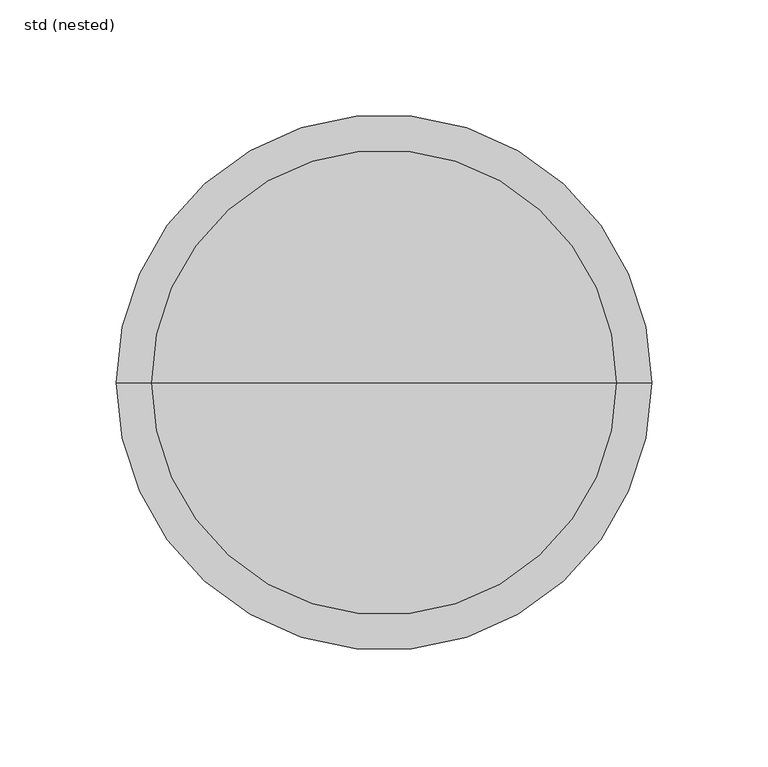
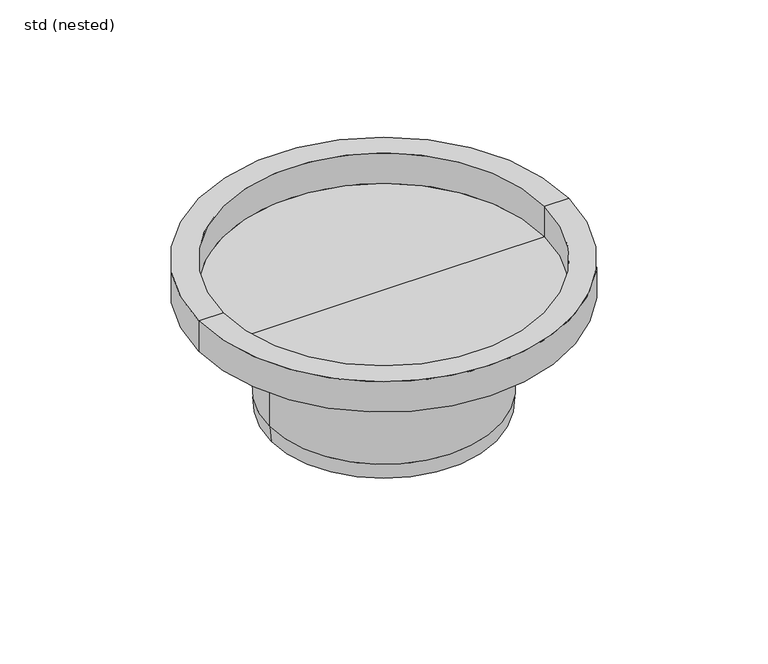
"""IFC4 building model written with IfcOpenShell, lengths in millimetres: sanitary terminal geometry, ZZZ_do not use_PF_ST_UN_telescopic gully top round_ACO : std (nested)."""

from ifc_helpers import new_model, si_unit, point, frame, origin, origin_with_axes, place, context, project, spatial, polyline, circle_curve, ellipse_curve, trimmed, source, transform, mapped, element, save
from ifc_brep_helpers import plane_surface, cylinder_surface, revolved_surface, advanced_brep


def std_nested_9901e309(model_context):
    return source(origin(), model_context, "Body", "AdvancedBrep", [
        advanced_brep(
        [(-71.0, 0.0, -43.0), (-71.0, 0.0, -85.0), (71.0, 0.0, -85.0), (71.0, 0.0, -43.0), (0.0, 0.0, -20.0), (100.0, 0.0, -20.0), (-100.0, 0.0, -20.0), (-71.75, 0.0, -43.0), (71.75, 0.0, -43.0), (-71.75, 0.0, -32.5), (71.75, 0.0, -32.5), (-78.75, 0.0, -32.5), (78.75, 0.0, -32.5), (-83.75, 0.0, -31.6183651), (83.75, 0.0, -31.6183651), (-100.0, 0.0, -25.0), (100.0, 0.0, -25.0), (-105.0, 0.0, -20.0), (105.0, 0.0, -20.0), (-115.0, 0.0, -20.0), (115.0, 0.0, -20.0), (-115.0, 0.0, 0.0), (115.0, 0.0, 0.0), (-100.0, 0.0, 0.0), (100.0, 0.0, 0.0), (70.1284426, 0.0, -94.961947), (-70.1284426, 0.0, -94.961947), (0.0, 0.0, -94.961947)],
        [
            (0, 1),
            (1, 2, circle_curve(frame((0.0, 0.0, -85.0), z_axis=(0.0, 0.0, 1.0), x_axis=(1.0, 0.0, 0.0)), 71.0)),
            (2, 3),
            (3, 0, circle_curve(frame((0.0, 0.0, -43.0), z_axis=(0.0, 0.0, -1.0), x_axis=(1.0, 0.0, 0.0)), 71.0)),
            (0, 3, circle_curve(frame((0.0, 0.0, -43.0), z_axis=(0.0, 0.0, -1.0), x_axis=(1.0, 0.0, 0.0)), 71.0)),
            (2, 1, circle_curve(frame((0.0, 0.0, -85.0), z_axis=(0.0, 0.0, 1.0), x_axis=(1.0, 0.0, 0.0)), 71.0)),
            (4, 5),
            (5, 6, circle_curve(frame((0.0, 0.0, -20.0), z_axis=(0.0, 0.0, 1.0), x_axis=(1.0, 0.0, 0.0)), 100.0)),
            (6, 4),
            (6, 5, circle_curve(frame((0.0, 0.0, -20.0), z_axis=(0.0, 0.0, 1.0), x_axis=(1.0, 0.0, 0.0)), 100.0)),
            (7, 8, circle_curve(frame((0.0, 0.0, -43.0), z_axis=(0.0, 0.0, -1.0), x_axis=(1.0, 0.0, 0.0)), 71.75)),
            (8, 3),
            (0, 7),
            (8, 7, circle_curve(frame((0.0, 0.0, -43.0), z_axis=(0.0, 0.0, -1.0), x_axis=(1.0, 0.0, 0.0)), 71.75)),
            (7, 9),
            (9, 10, circle_curve(frame((0.0, 0.0, -32.5), z_axis=(0.0, 0.0, -1.0), x_axis=(1.0, 0.0, 0.0)), 71.75)),
            (10, 8),
            (10, 9, circle_curve(frame((0.0, 0.0, -32.5), z_axis=(0.0, 0.0, -1.0), x_axis=(1.0, 0.0, 0.0)), 71.75)),
            (9, 11),
            (11, 12, circle_curve(frame((0.0, 0.0, -32.5), z_axis=(0.0, 0.0, -1.0), x_axis=(1.0, 0.0, 0.0)), 78.75)),
            (12, 10),
            (12, 11, circle_curve(frame((0.0, 0.0, -32.5), z_axis=(0.0, 0.0, -1.0), x_axis=(1.0, 0.0, 0.0)), 78.75)),
            (11, 13),
            (13, 14, circle_curve(frame((0.0, 0.0, -31.6183651), z_axis=(0.0, 0.0, -1.0), x_axis=(1.0, 0.0, 0.0)), 83.75)),
            (14, 12),
            (14, 13, circle_curve(frame((0.0, 0.0, -31.6183651), z_axis=(0.0, 0.0, -1.0), x_axis=(1.0, 0.0, 0.0)), 83.75)),
            (13, 15),
            (15, 16, circle_curve(frame((0.0, 0.0, -25.0), z_axis=(0.0, 0.0, -1.0), x_axis=(1.0, 0.0, 0.0)), 100.0)),
            (16, 14),
            (16, 15, circle_curve(frame((0.0, 0.0, -25.0), z_axis=(0.0, 0.0, -1.0), x_axis=(1.0, 0.0, 0.0)), 100.0)),
            (15, 17, circle_curve(frame((-100.0, 0.0, -20.0), z_axis=(0.0, 1.0, 0.0), x_axis=(-1.0, 0.0, 0.0)), 5.0)),
            (17, 18, circle_curve(frame((0.0, 0.0, -20.0), z_axis=(0.0, 0.0, -1.0), x_axis=(1.0, 0.0, 0.0)), 105.0)),
            (18, 16, circle_curve(frame((100.0, 0.0, -20.0), z_axis=(0.0, 1.0, 0.0), x_axis=(1.0, 0.0, 0.0)), 5.0)),
            (18, 17, circle_curve(frame((0.0, 0.0, -20.0), z_axis=(0.0, 0.0, -1.0), x_axis=(1.0, 0.0, 0.0)), 105.0)),
            (17, 19),
            (19, 20, circle_curve(frame((0.0, 0.0, -20.0), z_axis=(0.0, 0.0, -1.0), x_axis=(1.0, 0.0, 0.0)), 115.0)),
            (20, 18),
            (20, 19, circle_curve(frame((0.0, 0.0, -20.0), z_axis=(0.0, 0.0, -1.0), x_axis=(1.0, 0.0, 0.0)), 115.0)),
            (19, 21),
            (21, 22, circle_curve(frame((0.0, 0.0, 0.0), z_axis=(0.0, 0.0, -1.0), x_axis=(1.0, 0.0, 0.0)), 115.0)),
            (22, 20),
            (22, 21, circle_curve(frame((0.0, 0.0, 0.0), z_axis=(0.0, 0.0, -1.0), x_axis=(1.0, 0.0, 0.0)), 115.0)),
            (21, 23),
            (23, 24, circle_curve(frame((0.0, 0.0, 0.0), z_axis=(0.0, 0.0, -1.0), x_axis=(1.0, 0.0, 0.0)), 100.0)),
            (24, 22),
            (24, 23, circle_curve(frame((0.0, 0.0, 0.0), z_axis=(0.0, 0.0, -1.0), x_axis=(1.0, 0.0, 0.0)), 100.0)),
            (5, 24),
            (23, 6),
            (2, 25),
            (25, 26, circle_curve(frame((0.0, 0.0, -94.961947), z_axis=(0.0, 0.0, 1.0), x_axis=(1.0, 0.0, 0.0)), 70.1284426)),
            (26, 1),
            (26, 25, circle_curve(frame((0.0, 0.0, -94.961947), z_axis=(0.0, 0.0, 1.0), x_axis=(1.0, 0.0, 0.0)), 70.1284426)),
            (25, 27),
            (27, 26),
        ],
        [
            cylinder_surface(frame((0.0, 0.0, -85.0), z_axis=(0.0, 0.0, 1.0), x_axis=(1.0, 0.0, 0.0)), 71.0),
            plane_surface(frame((0.0, 0.0, -20.0), z_axis=(0.0, 0.0, 1.0), x_axis=(1.0, 0.0, 0.0))),
            plane_surface(frame((0.0, 0.0, -43.0), z_axis=(0.0, 0.0, -1.0), x_axis=(1.0, 0.0, 0.0))),
            cylinder_surface(frame((0.0, 0.0, 50.0), z_axis=(0.0, 0.0, 1.0), x_axis=(1.0, 0.0, 0.0)), 71.75),
            plane_surface(frame((0.0, 0.0, -32.5), z_axis=(0.0, 0.0, -1.0), x_axis=(1.0, 0.0, 0.0))),
            revolved_surface(polyline([(78.75, 0.0, -32.5), (83.75, 0.0, -31.6183651)]), (0.0, 0.0, 50.0), (0.0, 0.0, 1.0)),
            revolved_surface(polyline([(83.75, 0.0, -31.6183651), (100.0, 0.0, -25.0)]), (0.0, 0.0, 50.0), (0.0, 0.0, 1.0)),
            revolved_surface(trimmed(ellipse_curve(frame((100.0, 0.0, -20.0), z_axis=(0.0, -1.0, 0.0), x_axis=(1.0, 0.0, 0.0)), 5.0, 5.0), [point((100.0, 0.0, -25.0))], [point((105.0, 0.0, -20.0))], True, "CARTESIAN"), (0.0, 0.0, 50.0), (0.0, 0.0, 1.0)),
            plane_surface(frame((0.0, 0.0, -20.0), z_axis=(0.0, 0.0, -1.0), x_axis=(1.0, 0.0, 0.0))),
            cylinder_surface(frame((0.0, 0.0, 50.0), z_axis=(0.0, 0.0, 1.0), x_axis=(1.0, 0.0, 0.0)), 115.0),
            plane_surface(origin_with_axes()),
            revolved_surface(polyline([(100.0, 0.0, 0.0), (100.0, 0.0, -20.0)]), (0.0, 0.0, 50.0), (0.0, 0.0, 1.0)),
            revolved_surface(polyline([(70.1284426, 0.0, -94.961947), (71.0, 0.0, -85.0)]), (0.0, 0.0, 50.0), (0.0, 0.0, 1.0)),
            plane_surface(frame((0.0, 0.0, -94.961947), z_axis=(0.0, 0.0, -1.0), x_axis=(1.0, 0.0, 0.0))),
        ],
        [
            (0, [[1, 2, 3, 4]]),
            (0, [[-1, 5, -3, 6]]),
            (1, [[7, 8, 9]]),
            (1, [[-7, -9, 10]]),
            (2, [[11, 12, -5, 13]]),
            (2, [[14, -13, -4, -12]]),
            (3, [[-11, 15, 16, 17]]),
            (3, [[-14, -17, 18, -15]]),
            (4, [[-16, 19, 20, 21]]),
            (4, [[-18, -21, 22, -19]]),
            (5, [[-20, 23, 24, 25]]),
            (5, [[-22, -25, 26, -23]]),
            (6, [[-24, 27, 28, 29]]),
            (6, [[-26, -29, 30, -27]]),
            (7, [[-28, 31, 32, 33]]),
            (7, [[-30, -33, 34, -31]]),
            (8, [[-32, 35, 36, 37]]),
            (8, [[-34, -37, 38, -35]]),
            (9, [[-36, 39, 40, 41]]),
            (9, [[-38, -41, 42, -39]]),
            (10, [[-40, 43, 44, 45]]),
            (10, [[-42, -45, 46, -43]]),
            (11, [[-8, 47, -44, 48]]),
            (11, [[-10, -48, -46, -47]]),
            (12, [[49, 50, 51, -6]]),
            (12, [[-49, -2, -51, 52]]),
            (13, [[-50, 53, 54]]),
            (13, [[-52, -54, -53]]),
        ],
    ),
    ])


if __name__ == "__main__":
    model = new_model("IFC4")
    model_context = context("Model", 3, world=origin())
    ifc_project = project(units=[si_unit("LENGTHUNIT", "METRE", prefix="MILLI")], contexts=[model_context])
    site = spatial("IfcSite", under=ifc_project)
    building = spatial("IfcBuilding", under=site)
    placement = place(None, origin())
    std_nested_shape = std_nested_9901e309(model_context)
    element("IfcSanitaryTerminal", 1, ObjectType="ZZZ_do not use_PF_ST_UN_telescopic gully top round_ACO : std (nested)", at=placement, inside=building, context=model_context, shape_type="MappedRepresentation", body=[
        mapped(std_nested_shape, transform((0.0, 0.0, 0.0), x_axis=(1.0, 0.0, 0.0), y_axis=(0.0, 1.0, 0.0), z_axis=(0.0, 0.0, 1.0))),
    ])
    save(model, "model.ifc")
